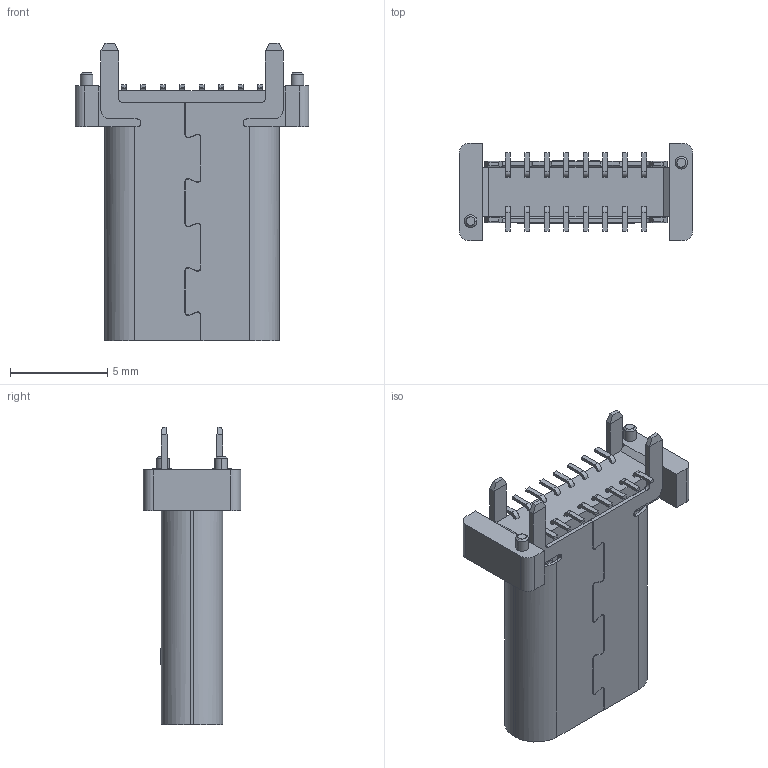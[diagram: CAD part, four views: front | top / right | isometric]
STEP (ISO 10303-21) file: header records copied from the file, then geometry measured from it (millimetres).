
FILE_DESCRIPTION (( 'STEP AP203' ), '1' );
FILE_NAME ('U5234-16PN13.1L.STEP', '2026-09-22T01:36:42', ( '' ), ( '' ), 'SwSTEP 2.0', 'SolidWorks 2024', '' );
FILE_SCHEMA (( 'CONFIG_CONTROL_DESIGN' ));
Length unit declared in the file: millimetre
Products named in the file (1): U5234-16PN13.1L
Bounding box: 12 x 5 x 15.3 mm (x, y, z)
Volume: 283.1 mm3; surface area: 897.5 mm2
Topology: 1 solids, 3 shells, 628 faces, 1674 edges, 1082 vertices
Faces by surface type: plane 429, cylinder 138, cone 36, bspline 25
Entity records: 20973 total; most frequent: CARTESIAN_POINT 5284, ORIENTED_EDGE 3342, DIRECTION 3067, EDGE_CURVE 1671, LINE 1271, VECTOR 1271, VERTEX_POINT 1082, AXIS2_PLACEMENT_3D 898
